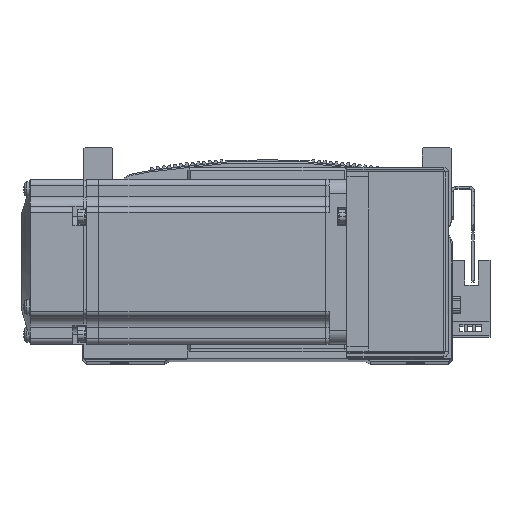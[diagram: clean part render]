
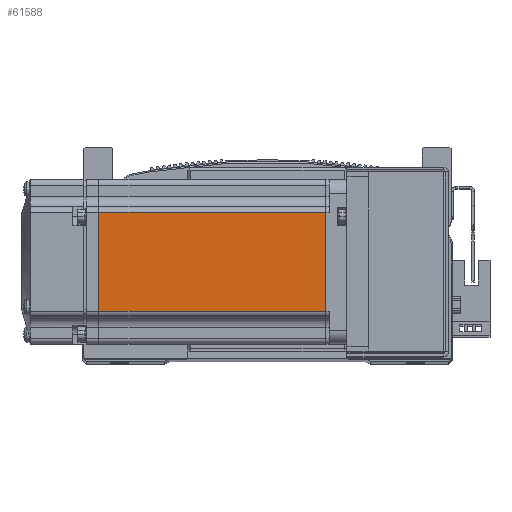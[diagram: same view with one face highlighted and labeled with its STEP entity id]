
A CAD part, top view. The second image highlights one B-rep face of the part: STEP entity #61588.
In plain terms, the highlighted planar face has unit normal (0, 0, 1) as drawn and (0, -1, 0) by its records, which use the part's own axes.
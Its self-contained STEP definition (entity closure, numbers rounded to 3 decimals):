
#8038 = AXIS2_PLACEMENT_3D ( 'NONE', #9817, #9808, #9818 ) ;
#9778 = PLANE ( 'NONE',  #8038 ) ;
#9808 = DIRECTION ( 'NONE',  ( 0., -1., 0. ) ) ;
#9817 = CARTESIAN_POINT ( 'NONE',  ( -6.5, -30., -25. ) ) ;
#9818 = DIRECTION ( 'NONE',  ( 0., 0., -1. ) ) ;
#12342 = VERTEX_POINT ( 'NONE', #68371 ) ;
#12357 = VERTEX_POINT ( 'NONE', #68388 ) ;
#12362 = VERTEX_POINT ( 'NONE', #68403 ) ;
#12381 = VERTEX_POINT ( 'NONE', #68408 ) ;
#19466 = DIRECTION ( 'NONE',  ( 0., 0., -1. ) ) ;
#19484 = CARTESIAN_POINT ( 'NONE',  ( -90.45, -30., 0. ) ) ;
#19519 = DIRECTION ( 'NONE',  ( -1., 0., 0. ) ) ;
#19543 = CARTESIAN_POINT ( 'NONE',  ( -6.5, -30., 18. ) ) ;
#19558 = CARTESIAN_POINT ( 'NONE',  ( -6.5, -30., -18. ) ) ;
#19582 = DIRECTION ( 'NONE',  ( -1., 0., 0. ) ) ;
#19620 = CARTESIAN_POINT ( 'NONE',  ( -7.75, -30., 0. ) ) ;
#19642 = DIRECTION ( 'NONE',  ( 0., 0., -1. ) ) ;
#19673 = ORIENTED_EDGE ( 'NONE', *, *, #75524, .F. ) ;
#19682 = ORIENTED_EDGE ( 'NONE', *, *, #75508, .T. ) ;
#19696 = ORIENTED_EDGE ( 'NONE', *, *, #75522, .T. ) ;
#19722 = ORIENTED_EDGE ( 'NONE', *, *, #75546, .F. ) ;
#20593 = EDGE_LOOP ( 'NONE', ( #19722, #19696, #19682, #19673 ) ) ;
#26078 = FACE_OUTER_BOUND ( 'NONE', #20593, .T. ) ;
#36194 = VECTOR ( 'NONE', #19582, 1000. ) ;
#36199 = VECTOR ( 'NONE', #19519, 1000. ) ;
#36219 = LINE ( 'NONE', #19558, #36199 ) ;
#36234 = LINE ( 'NONE', #19543, #36194 ) ;
#36254 = LINE ( 'NONE', #19484, #36258 ) ;
#36258 = VECTOR ( 'NONE', #19466, 1000. ) ;
#36278 = VECTOR ( 'NONE', #19642, 1000. ) ;
#36328 = LINE ( 'NONE', #19620, #36278 ) ;
#61588 = ADVANCED_FACE ( 'NONE', ( #26078 ), #9778, .T. ) ;
#68371 = CARTESIAN_POINT ( 'NONE',  ( -90.45, -30., 18. ) ) ;
#68388 = CARTESIAN_POINT ( 'NONE',  ( -7.75, -30., -18. ) ) ;
#68403 = CARTESIAN_POINT ( 'NONE',  ( -90.45, -30., -18. ) ) ;
#68408 = CARTESIAN_POINT ( 'NONE',  ( -7.75, -30., 18. ) ) ;
#75508 = EDGE_CURVE ( 'NONE', #12342, #12362, #36254, .T. ) ;
#75522 = EDGE_CURVE ( 'NONE', #12381, #12342, #36234, .T. ) ;
#75524 = EDGE_CURVE ( 'NONE', #12357, #12362, #36219, .T. ) ;
#75546 = EDGE_CURVE ( 'NONE', #12381, #12357, #36328, .T. ) ;
